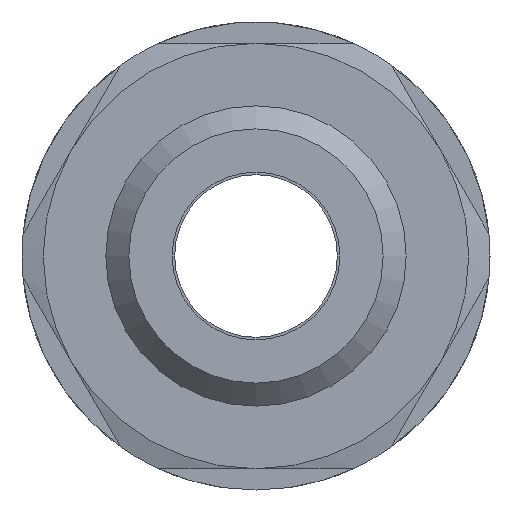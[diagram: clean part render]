
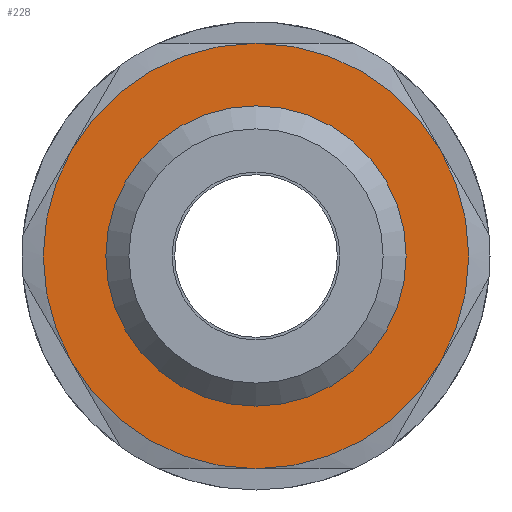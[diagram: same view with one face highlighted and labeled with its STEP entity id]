
A CAD part, front view. The second image highlights one B-rep face of the part: STEP entity #228.
In plain terms, the highlighted planar face has unit normal (0, -1, 0) as drawn and (1, 0, 0) by its records, which use the part's own axes.
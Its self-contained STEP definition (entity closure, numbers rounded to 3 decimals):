
#228 = ADVANCED_FACE( '', ( #466, #467 ), #468, .F. );
#466 = FACE_BOUND( '', #712, .T. );
#467 = FACE_OUTER_BOUND( '', #713, .T. );
#468 = PLANE( '', #714 );
#712 = EDGE_LOOP( '', ( #1168 ) );
#713 = EDGE_LOOP( '', ( #1169, #1170, #1171, #1172, #1173, #1174 ) );
#714 = AXIS2_PLACEMENT_3D( '', #1175, #1176, #1177 );
#1168 = ORIENTED_EDGE( '', *, *, #1555, .F. );
#1169 = ORIENTED_EDGE( '', *, *, #1429, .T. );
#1170 = ORIENTED_EDGE( '', *, *, #1435, .T. );
#1171 = ORIENTED_EDGE( '', *, *, #1550, .T. );
#1172 = ORIENTED_EDGE( '', *, *, #1544, .T. );
#1173 = ORIENTED_EDGE( '', *, *, #1462, .T. );
#1174 = ORIENTED_EDGE( '', *, *, #1556, .T. );
#1175 = CARTESIAN_POINT( '', ( 5., 8.5, 0. ) );
#1176 = DIRECTION( '', ( -1., 0., 0. ) );
#1177 = DIRECTION( '', ( 0., 0., 1. ) );
#1429 = EDGE_CURVE( '', #1629, #1687, #1690, .T. );
#1435 = EDGE_CURVE( '', #1687, #1697, #1699, .T. );
#1462 = EDGE_CURVE( '', #1618, #1640, #1743, .T. );
#1544 = EDGE_CURVE( '', #1861, #1618, #1864, .T. );
#1550 = EDGE_CURVE( '', #1697, #1861, #1872, .T. );
#1555 = EDGE_CURVE( '', #1877, #1877, #1878, .T. );
#1556 = EDGE_CURVE( '', #1640, #1629, #1879, .T. );
#1618 = VERTEX_POINT( '', #1945 );
#1629 = VERTEX_POINT( '', #1965 );
#1640 = VERTEX_POINT( '', #1985 );
#1687 = VERTEX_POINT( '', #2047 );
#1690 = CIRCLE( '', #2053, 8.5 );
#1697 = VERTEX_POINT( '', #2063 );
#1699 = CIRCLE( '', #2068, 8.5 );
#1743 = CIRCLE( '', #2127, 8.5 );
#1861 = VERTEX_POINT( '', #2325 );
#1864 = CIRCLE( '', #2331, 8.5 );
#1872 = CIRCLE( '', #2343, 8.5 );
#1877 = VERTEX_POINT( '', #2349 );
#1878 = CIRCLE( '', #2350, 6. );
#1879 = CIRCLE( '', #2351, 8.5 );
#1945 = CARTESIAN_POINT( '', ( 5., -7.361, 4.25 ) );
#1965 = CARTESIAN_POINT( '', ( 5., 0., -8.5 ) );
#1985 = CARTESIAN_POINT( '', ( 5., -7.361, -4.25 ) );
#2047 = CARTESIAN_POINT( '', ( 5., 7.361, -4.25 ) );
#2053 = AXIS2_PLACEMENT_3D( '', #2485, #2486, #2487 );
#2063 = CARTESIAN_POINT( '', ( 5., 7.361, 4.25 ) );
#2068 = AXIS2_PLACEMENT_3D( '', #2494, #2495, #2496 );
#2127 = AXIS2_PLACEMENT_3D( '', #2543, #2544, #2545 );
#2325 = CARTESIAN_POINT( '', ( 5., 0., 8.5 ) );
#2331 = AXIS2_PLACEMENT_3D( '', #2638, #2639, #2640 );
#2343 = AXIS2_PLACEMENT_3D( '', #2645, #2646, #2647 );
#2349 = CARTESIAN_POINT( '', ( 5., 0., -6. ) );
#2350 = AXIS2_PLACEMENT_3D( '', #2652, #2653, #2654 );
#2351 = AXIS2_PLACEMENT_3D( '', #2655, #2656, #2657 );
#2485 = CARTESIAN_POINT( '', ( 5., 0., 0. ) );
#2486 = DIRECTION( '', ( 1., 0., 0. ) );
#2487 = DIRECTION( '', ( 0., 0., -1. ) );
#2494 = CARTESIAN_POINT( '', ( 5., 0., 0. ) );
#2495 = DIRECTION( '', ( 1., 0., 0. ) );
#2496 = DIRECTION( '', ( 0., 0., -1. ) );
#2543 = CARTESIAN_POINT( '', ( 5., 0., 0. ) );
#2544 = DIRECTION( '', ( 1., 0., 0. ) );
#2545 = DIRECTION( '', ( 0., 0., -1. ) );
#2638 = CARTESIAN_POINT( '', ( 5., 0., 0. ) );
#2639 = DIRECTION( '', ( 1., 0., 0. ) );
#2640 = DIRECTION( '', ( 0., 0., -1. ) );
#2645 = CARTESIAN_POINT( '', ( 5., 0., 0. ) );
#2646 = DIRECTION( '', ( 1., 0., 0. ) );
#2647 = DIRECTION( '', ( 0., 0., -1. ) );
#2652 = CARTESIAN_POINT( '', ( 5., 0., 0. ) );
#2653 = DIRECTION( '', ( 1., 0., 0. ) );
#2654 = DIRECTION( '', ( 0., 0., -1. ) );
#2655 = CARTESIAN_POINT( '', ( 5., 0., 0. ) );
#2656 = DIRECTION( '', ( 1., 0., 0. ) );
#2657 = DIRECTION( '', ( 0., 0., -1. ) );
